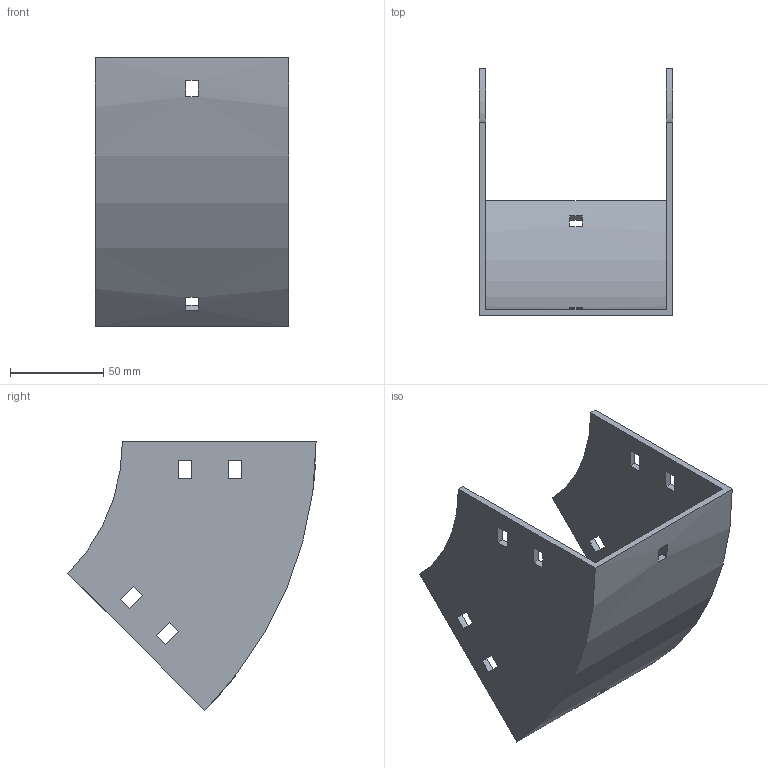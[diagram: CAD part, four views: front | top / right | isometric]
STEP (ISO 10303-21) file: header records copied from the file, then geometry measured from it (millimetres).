
FILE_DESCRIPTION (( 'STEP AP214' ), '1' );
FILE_NAME ('31B1D100.step', '2025-02-21T09:45:32', ( '' ), ( '' ), 'SwSTEP 2.0', 'SolidWorks 2023', '' );
FILE_SCHEMA (( 'AUTOMOTIVE_DESIGN' ));
Length unit declared in the file: millimetre
Products named in the file (1): 31B1D100
Bounding box: 104 x 133.29 x 144.25 mm (x, y, z)
Volume: 138466.6 mm3; surface area: 82987.9 mm2
Topology: 1 solids, 1 shells, 50 faces, 144 edges, 96 vertices
Faces by surface type: plane 46, cylinder 4
Entity records: 1687 total; most frequent: CARTESIAN_POINT 291, ORIENTED_EDGE 288, DIRECTION 262, EDGE_CURVE 144, VECTOR 128, LINE 128, VERTEX_POINT 96, EDGE_LOOP 70
